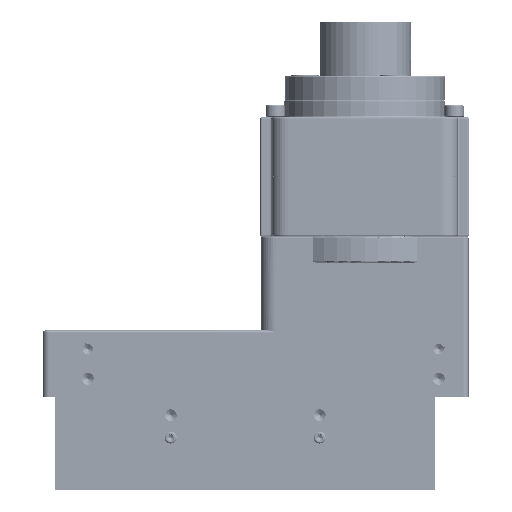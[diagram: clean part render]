
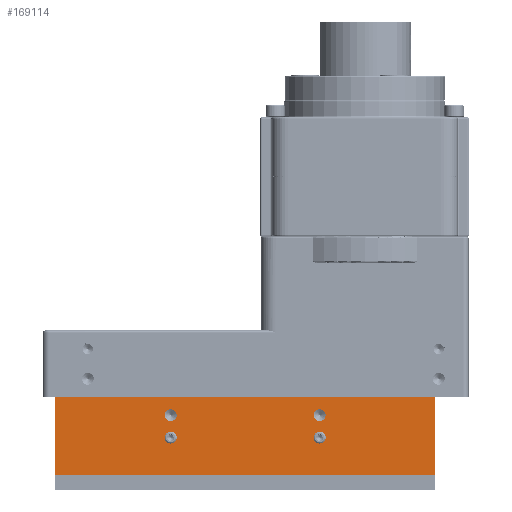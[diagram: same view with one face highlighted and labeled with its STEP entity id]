
A CAD part, top view. The second image highlights one B-rep face of the part: STEP entity #169114.
In plain terms, the highlighted planar face has unit normal (0, 0, 1).
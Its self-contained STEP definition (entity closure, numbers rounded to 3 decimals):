
#7682 = AXIS2_PLACEMENT_3D ( 'NONE', #291259, #36744, #153551 ) ;
#9327 = DIRECTION ( 'NONE',  ( 0., 0., 1. ) ) ;
#11586 = CARTESIAN_POINT ( 'NONE',  ( -177.5, 50., 0. ) ) ;
#13694 = LINE ( 'NONE', #247351, #91234 ) ;
#24416 = ORIENTED_EDGE ( 'NONE', *, *, #71779, .F. ) ;
#27190 = CIRCLE ( 'NONE', #286323, 4. ) ;
#31822 = CARTESIAN_POINT ( 'NONE',  ( -81.5, 35., 0. ) ) ;
#31911 = ORIENTED_EDGE ( 'NONE', *, *, #179565, .F. ) ;
#36744 = DIRECTION ( 'NONE',  ( 0., 0., -1. ) ) ;
#37952 = VERTEX_POINT ( 'NONE', #205489 ) ;
#37998 = DIRECTION ( 'NONE',  ( 1., 0., 0. ) ) ;
#38599 = FACE_BOUND ( 'NONE', #143063, .T. ) ;
#39606 = VERTEX_POINT ( 'NONE', #290818 ) ;
#40727 = ORIENTED_EDGE ( 'NONE', *, *, #286734, .F. ) ;
#48622 = EDGE_CURVE ( 'NONE', #312775, #174913, #235198, .T. ) ;
#49812 = DIRECTION ( 'NONE',  ( 1., 0., 0. ) ) ;
#51133 = DIRECTION ( 'NONE',  ( 0., 0., 1. ) ) ;
#57058 = CARTESIAN_POINT ( 'NONE',  ( -255., 10., 0. ) ) ;
#61911 = ORIENTED_EDGE ( 'NONE', *, *, #318217, .F. ) ;
#66901 = DIRECTION ( 'NONE',  ( 0., 0., 1. ) ) ;
#69955 = EDGE_CURVE ( 'NONE', #254468, #174913, #108029, .T. ) ;
#71779 = EDGE_CURVE ( 'NONE', #37952, #211938, #162654, .T. ) ;
#72095 = DIRECTION ( 'NONE',  ( 0., -1., 0. ) ) ;
#74710 = VERTEX_POINT ( 'NONE', #219859 ) ;
#76506 = CARTESIAN_POINT ( 'NONE',  ( -255., 62., 0. ) ) ;
#80123 = EDGE_LOOP ( 'NONE', ( #61911, #237006 ) ) ;
#84951 = CARTESIAN_POINT ( 'NONE',  ( -77.5, 35., 0. ) ) ;
#86337 = EDGE_CURVE ( 'NONE', #211938, #37952, #169195, .T. ) ;
#89539 = PLANE ( 'NONE',  #7682 ) ;
#90030 = CARTESIAN_POINT ( 'NONE',  ( 0., 62., 0. ) ) ;
#91234 = VECTOR ( 'NONE', #72095, 1000. ) ;
#92045 = CIRCLE ( 'NONE', #302766, 4. ) ;
#94539 = DIRECTION ( 'NONE',  ( 0., 0., 1. ) ) ;
#99970 = CARTESIAN_POINT ( 'NONE',  ( 0., 10., 0. ) ) ;
#100555 = ORIENTED_EDGE ( 'NONE', *, *, #69955, .T. ) ;
#104537 = DIRECTION ( 'NONE',  ( 0., 0., 1. ) ) ;
#106137 = CARTESIAN_POINT ( 'NONE',  ( -173.5, 35., 0. ) ) ;
#108029 = LINE ( 'NONE', #364415, #228330 ) ;
#110084 = CARTESIAN_POINT ( 'NONE',  ( -177.5, 35., 0. ) ) ;
#113431 = ORIENTED_EDGE ( 'NONE', *, *, #330781, .F. ) ;
#113509 = ORIENTED_EDGE ( 'NONE', *, *, #357083, .F. ) ;
#127515 = LINE ( 'NONE', #76506, #271881 ) ;
#134165 = EDGE_LOOP ( 'NONE', ( #224572, #24416 ) ) ;
#138366 = DIRECTION ( 'NONE',  ( 0., 0., 1. ) ) ;
#141152 = DIRECTION ( 'NONE',  ( 1., 0., 0. ) ) ;
#143063 = EDGE_LOOP ( 'NONE', ( #113509, #365071 ) ) ;
#146066 = DIRECTION ( 'NONE',  ( 0., 0., 1. ) ) ;
#147934 = DIRECTION ( 'NONE',  ( 1., 0., 0. ) ) ;
#153551 = DIRECTION ( 'NONE',  ( -1., 0., 0. ) ) ;
#162654 = CIRCLE ( 'NONE', #217054, 4. ) ;
#167799 = CARTESIAN_POINT ( 'NONE',  ( -77.5, 50., 0. ) ) ;
#169114 = ADVANCED_FACE ( 'NONE', ( #264848, #208283, #38599, #176230, #268567 ), #89539, .F. ) ;
#169195 = CIRCLE ( 'NONE', #265596, 4. ) ;
#169771 = DIRECTION ( 'NONE',  ( 1., 0., 0. ) ) ;
#174913 = VERTEX_POINT ( 'NONE', #99970 ) ;
#176230 = FACE_BOUND ( 'NONE', #80123, .T. ) ;
#176367 = AXIS2_PLACEMENT_3D ( 'NONE', #289372, #146066, #147934 ) ;
#179565 = EDGE_CURVE ( 'NONE', #39606, #312775, #127515, .T. ) ;
#181847 = DIRECTION ( 'NONE',  ( 1., 0., 0. ) ) ;
#182762 = CARTESIAN_POINT ( 'NONE',  ( -73.5, 50., 0. ) ) ;
#183861 = VERTEX_POINT ( 'NONE', #367664 ) ;
#186639 = ORIENTED_EDGE ( 'NONE', *, *, #262188, .T. ) ;
#186732 = EDGE_LOOP ( 'NONE', ( #186639, #100555, #342890, #31911 ) ) ;
#191471 = DIRECTION ( 'NONE',  ( 1., 0., 0. ) ) ;
#204589 = AXIS2_PLACEMENT_3D ( 'NONE', #11586, #94539, #37998 ) ;
#205489 = CARTESIAN_POINT ( 'NONE',  ( -81.5, 50., 0. ) ) ;
#208283 = FACE_BOUND ( 'NONE', #134165, .T. ) ;
#211938 = VERTEX_POINT ( 'NONE', #182762 ) ;
#213884 = CARTESIAN_POINT ( 'NONE',  ( -177.5, 35., 0. ) ) ;
#215086 = CARTESIAN_POINT ( 'NONE',  ( -181.5, 35., 0. ) ) ;
#217054 = AXIS2_PLACEMENT_3D ( 'NONE', #332661, #104537, #49812 ) ;
#219859 = CARTESIAN_POINT ( 'NONE',  ( -73.5, 35., 0. ) ) ;
#223021 = DIRECTION ( 'NONE',  ( 1., 0., 0. ) ) ;
#224572 = ORIENTED_EDGE ( 'NONE', *, *, #86337, .F. ) ;
#227884 = DIRECTION ( 'NONE',  ( 0., 0., 1. ) ) ;
#228330 = VECTOR ( 'NONE', #223021, 1000. ) ;
#235198 = LINE ( 'NONE', #90030, #328503 ) ;
#237006 = ORIENTED_EDGE ( 'NONE', *, *, #317052, .F. ) ;
#238937 = DIRECTION ( 'NONE',  ( 0., -1., 0. ) ) ;
#247351 = CARTESIAN_POINT ( 'NONE',  ( -255., 62., 0. ) ) ;
#254468 = VERTEX_POINT ( 'NONE', #57058 ) ;
#262188 = EDGE_CURVE ( 'NONE', #39606, #254468, #13694, .T. ) ;
#262647 = EDGE_LOOP ( 'NONE', ( #113431, #40727 ) ) ;
#264848 = FACE_BOUND ( 'NONE', #262647, .T. ) ;
#265596 = AXIS2_PLACEMENT_3D ( 'NONE', #167799, #9327, #318528 ) ;
#268567 = FACE_OUTER_BOUND ( 'NONE', #186732, .T. ) ;
#271881 = VECTOR ( 'NONE', #191471, 1000. ) ;
#273834 = CIRCLE ( 'NONE', #340049, 4. ) ;
#282878 = VERTEX_POINT ( 'NONE', #308482 ) ;
#286323 = AXIS2_PLACEMENT_3D ( 'NONE', #373002, #227884, #141152 ) ;
#286734 = EDGE_CURVE ( 'NONE', #282878, #183861, #351035, .T. ) ;
#289372 = CARTESIAN_POINT ( 'NONE',  ( -177.5, 50., 0. ) ) ;
#290818 = CARTESIAN_POINT ( 'NONE',  ( -255., 62., 0. ) ) ;
#291259 = CARTESIAN_POINT ( 'NONE',  ( -255., 62., 0. ) ) ;
#302766 = AXIS2_PLACEMENT_3D ( 'NONE', #213884, #66901, #181847 ) ;
#306898 = CIRCLE ( 'NONE', #204589, 4. ) ;
#307788 = VERTEX_POINT ( 'NONE', #215086 ) ;
#308482 = CARTESIAN_POINT ( 'NONE',  ( -181.5, 50., 0. ) ) ;
#310886 = CARTESIAN_POINT ( 'NONE',  ( 0., 62., 0. ) ) ;
#312775 = VERTEX_POINT ( 'NONE', #310886 ) ;
#313794 = VERTEX_POINT ( 'NONE', #31822 ) ;
#317052 = EDGE_CURVE ( 'NONE', #307788, #324782, #92045, .T. ) ;
#318217 = EDGE_CURVE ( 'NONE', #324782, #307788, #333218, .T. ) ;
#318528 = DIRECTION ( 'NONE',  ( 1., 0., 0. ) ) ;
#322047 = EDGE_CURVE ( 'NONE', #313794, #74710, #27190, .T. ) ;
#324782 = VERTEX_POINT ( 'NONE', #106137 ) ;
#328503 = VECTOR ( 'NONE', #238937, 1000. ) ;
#330781 = EDGE_CURVE ( 'NONE', #183861, #282878, #306898, .T. ) ;
#332661 = CARTESIAN_POINT ( 'NONE',  ( -77.5, 50., 0. ) ) ;
#333218 = CIRCLE ( 'NONE', #345273, 4. ) ;
#334526 = DIRECTION ( 'NONE',  ( 1., 0., 0. ) ) ;
#340049 = AXIS2_PLACEMENT_3D ( 'NONE', #84951, #51133, #169771 ) ;
#342890 = ORIENTED_EDGE ( 'NONE', *, *, #48622, .F. ) ;
#345273 = AXIS2_PLACEMENT_3D ( 'NONE', #110084, #138366, #334526 ) ;
#351035 = CIRCLE ( 'NONE', #176367, 4. ) ;
#357083 = EDGE_CURVE ( 'NONE', #74710, #313794, #273834, .T. ) ;
#364415 = CARTESIAN_POINT ( 'NONE',  ( -255., 10., 0. ) ) ;
#365071 = ORIENTED_EDGE ( 'NONE', *, *, #322047, .F. ) ;
#367664 = CARTESIAN_POINT ( 'NONE',  ( -173.5, 50., 0. ) ) ;
#373002 = CARTESIAN_POINT ( 'NONE',  ( -77.5, 35., 0. ) ) ;
